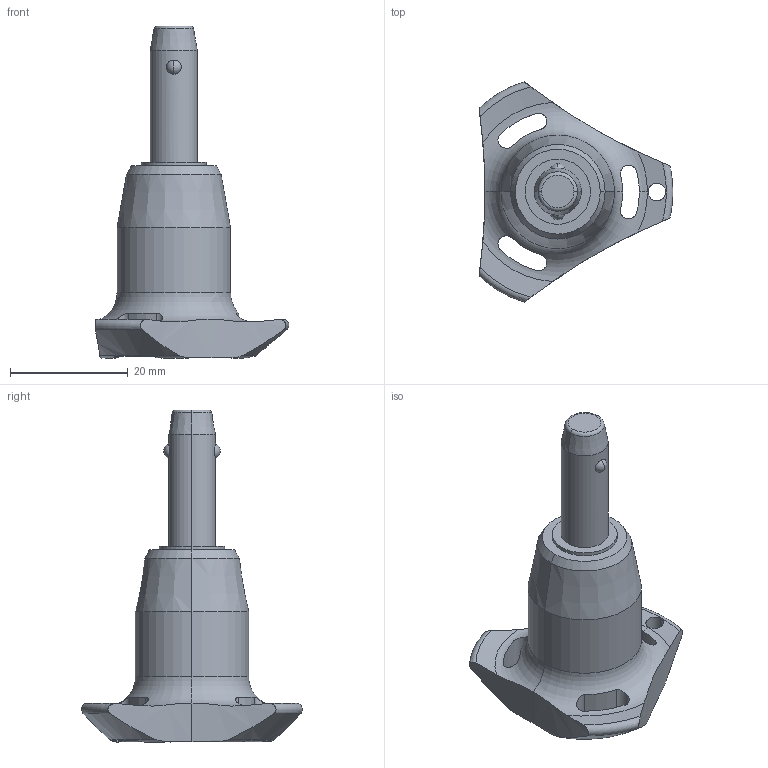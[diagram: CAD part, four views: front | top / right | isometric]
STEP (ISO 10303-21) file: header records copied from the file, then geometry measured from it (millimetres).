
FILE_DESCRIPTION (( 'STEP AP203' ), '1' );
FILE_NAME ('QR1714.M08-015-S.step', '2025-11-12T10:01:28', ( '' ), ( '' ), 'SwSTEP 2.0', 'SolidWorks 2019', '' );
FILE_SCHEMA (( 'CONFIG_CONTROL_DESIGN' ));
Length unit declared in the file: millimetre
Products named in the file (1): QR1714.M08-015-S
Bounding box: 33 x 37.51 x 56.5 mm (x, y, z)
Volume: 11404.2 mm3; surface area: 4431.6 mm2
Topology: 1 solids, 1 shells, 65 faces, 174 edges, 109 vertices
Faces by surface type: cylinder 30, cone 14, torus 11, sphere 6, plane 4
Entity records: 2746 total; most frequent: CARTESIAN_POINT 1073, ORIENTED_EDGE 348, DIRECTION 331, EDGE_CURVE 174, AXIS2_PLACEMENT_3D 147, VERTEX_POINT 109, CIRCLE 81, EDGE_LOOP 71
